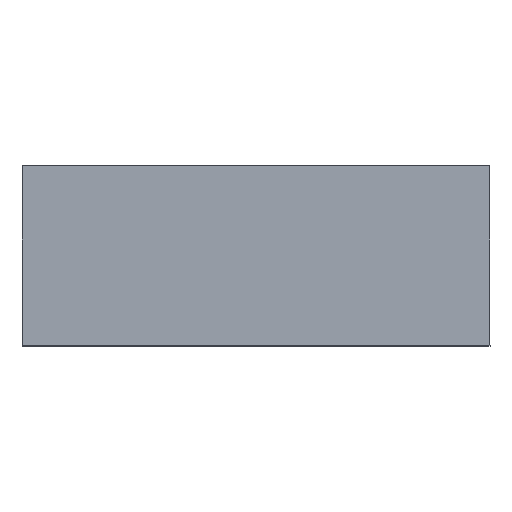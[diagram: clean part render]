
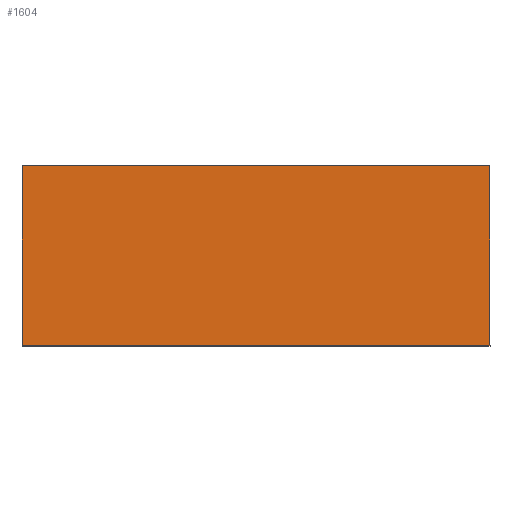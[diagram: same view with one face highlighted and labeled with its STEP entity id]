
A CAD part, top view. The second image highlights one B-rep face of the part: STEP entity #1604.
In plain terms, the highlighted planar face has unit normal (0, 0, 1).
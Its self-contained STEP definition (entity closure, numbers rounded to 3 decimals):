
#72 = PLANE('',#73);
#73 = AXIS2_PLACEMENT_3D('',#74,#75,#76);
#74 = CARTESIAN_POINT('',(-130.,30.23,
    0.));
#75 = DIRECTION('',(-1.,0.,0.));
#76 = DIRECTION('',(0.,0.,1.));
#342 = PLANE('',#343);
#343 = AXIS2_PLACEMENT_3D('',#344,#345,#346);
#344 = CARTESIAN_POINT('',(0.,100.,0.));
#345 = DIRECTION('',(0.,-1.,0.));
#346 = DIRECTION('',(0.,0.,1.));
#378 = EDGE_CURVE('',#379,#381,#383,.T.);
#379 = VERTEX_POINT('',#380);
#380 = CARTESIAN_POINT('',(130.,100.,130.));
#381 = VERTEX_POINT('',#382);
#382 = CARTESIAN_POINT('',(-130.,100.,130.));
#383 = SURFACE_CURVE('',#384,(#388,#395),.PCURVE_S1.);
#384 = LINE('',#385,#386);
#385 = CARTESIAN_POINT('',(130.,100.,130.));
#386 = VECTOR('',#387,1.);
#387 = DIRECTION('',(-1.,0.,0.));
#388 = PCURVE('',#342,#389);
#389 = DEFINITIONAL_REPRESENTATION('',(#390),#394);
#390 = LINE('',#391,#392);
#391 = CARTESIAN_POINT('',(130.,-130.));
#392 = VECTOR('',#393,1.);
#393 = DIRECTION('',(0.,1.));
#394 = ( GEOMETRIC_REPRESENTATION_CONTEXT(2) 
PARAMETRIC_REPRESENTATION_CONTEXT() REPRESENTATION_CONTEXT('2D SPACE',''
  ) );
#395 = PCURVE('',#396,#401);
#396 = PLANE('',#397);
#397 = AXIS2_PLACEMENT_3D('',#398,#399,#400);
#398 = CARTESIAN_POINT('',(130.,0.,130.));
#399 = DIRECTION('',(0.,0.,1.));
#400 = DIRECTION('',(-1.,0.,0.));
#401 = DEFINITIONAL_REPRESENTATION('',(#402),#406);
#402 = LINE('',#403,#404);
#403 = CARTESIAN_POINT('',(0.,-100.));
#404 = VECTOR('',#405,1.);
#405 = DIRECTION('',(1.,0.));
#406 = ( GEOMETRIC_REPRESENTATION_CONTEXT(2) 
PARAMETRIC_REPRESENTATION_CONTEXT() REPRESENTATION_CONTEXT('2D SPACE',''
  ) );
#589 = PLANE('',#590);
#590 = AXIS2_PLACEMENT_3D('',#591,#592,#593);
#591 = CARTESIAN_POINT('',(130.,30.23,
    0.));
#592 = DIRECTION('',(1.,0.,0.));
#593 = DIRECTION('',(0.,1.,0.));
#1103 = PLANE('',#1104);
#1104 = AXIS2_PLACEMENT_3D('',#1105,#1106,#1107);
#1105 = CARTESIAN_POINT('',(0.,0.,
    0.));
#1106 = DIRECTION('',(0.,-1.,0.));
#1107 = DIRECTION('',(0.,0.,1.));
#1604 = ADVANCED_FACE('',(#1605),#396,.T.);
#1605 = FACE_BOUND('',#1606,.T.);
#1606 = EDGE_LOOP('',(#1607,#1630,#1631,#1654));
#1607 = ORIENTED_EDGE('',*,*,#1608,.T.);
#1608 = EDGE_CURVE('',#1609,#379,#1611,.T.);
#1609 = VERTEX_POINT('',#1610);
#1610 = CARTESIAN_POINT('',(130.,0.,130.));
#1611 = SURFACE_CURVE('',#1612,(#1616,#1623),.PCURVE_S1.);
#1612 = LINE('',#1613,#1614);
#1613 = CARTESIAN_POINT('',(130.,0.,130.));
#1614 = VECTOR('',#1615,1.);
#1615 = DIRECTION('',(0.,1.,0.));
#1616 = PCURVE('',#396,#1617);
#1617 = DEFINITIONAL_REPRESENTATION('',(#1618),#1622);
#1618 = LINE('',#1619,#1620);
#1619 = CARTESIAN_POINT('',(0.,0.));
#1620 = VECTOR('',#1621,1.);
#1621 = DIRECTION('',(0.,-1.));
#1622 = ( GEOMETRIC_REPRESENTATION_CONTEXT(2) 
PARAMETRIC_REPRESENTATION_CONTEXT() REPRESENTATION_CONTEXT('2D SPACE',''
  ) );
#1623 = PCURVE('',#589,#1624);
#1624 = DEFINITIONAL_REPRESENTATION('',(#1625),#1629);
#1625 = LINE('',#1626,#1627);
#1626 = CARTESIAN_POINT('',(-30.23,130.));
#1627 = VECTOR('',#1628,1.);
#1628 = DIRECTION('',(1.,0.));
#1629 = ( GEOMETRIC_REPRESENTATION_CONTEXT(2) 
PARAMETRIC_REPRESENTATION_CONTEXT() REPRESENTATION_CONTEXT('2D SPACE',''
  ) );
#1630 = ORIENTED_EDGE('',*,*,#378,.T.);
#1631 = ORIENTED_EDGE('',*,*,#1632,.F.);
#1632 = EDGE_CURVE('',#1633,#381,#1635,.T.);
#1633 = VERTEX_POINT('',#1634);
#1634 = CARTESIAN_POINT('',(-130.,0.,130.));
#1635 = SURFACE_CURVE('',#1636,(#1640,#1647),.PCURVE_S1.);
#1636 = LINE('',#1637,#1638);
#1637 = CARTESIAN_POINT('',(-130.,0.,130.));
#1638 = VECTOR('',#1639,1.);
#1639 = DIRECTION('',(0.,1.,0.));
#1640 = PCURVE('',#396,#1641);
#1641 = DEFINITIONAL_REPRESENTATION('',(#1642),#1646);
#1642 = LINE('',#1643,#1644);
#1643 = CARTESIAN_POINT('',(260.,0.));
#1644 = VECTOR('',#1645,1.);
#1645 = DIRECTION('',(0.,-1.));
#1646 = ( GEOMETRIC_REPRESENTATION_CONTEXT(2) 
PARAMETRIC_REPRESENTATION_CONTEXT() REPRESENTATION_CONTEXT('2D SPACE',''
  ) );
#1647 = PCURVE('',#72,#1648);
#1648 = DEFINITIONAL_REPRESENTATION('',(#1649),#1653);
#1649 = LINE('',#1650,#1651);
#1650 = CARTESIAN_POINT('',(130.,-30.23));
#1651 = VECTOR('',#1652,1.);
#1652 = DIRECTION('',(0.,1.));
#1653 = ( GEOMETRIC_REPRESENTATION_CONTEXT(2) 
PARAMETRIC_REPRESENTATION_CONTEXT() REPRESENTATION_CONTEXT('2D SPACE',''
  ) );
#1654 = ORIENTED_EDGE('',*,*,#1655,.F.);
#1655 = EDGE_CURVE('',#1609,#1633,#1656,.T.);
#1656 = SURFACE_CURVE('',#1657,(#1661,#1668),.PCURVE_S1.);
#1657 = LINE('',#1658,#1659);
#1658 = CARTESIAN_POINT('',(130.,0.,130.));
#1659 = VECTOR('',#1660,1.);
#1660 = DIRECTION('',(-1.,0.,0.));
#1661 = PCURVE('',#396,#1662);
#1662 = DEFINITIONAL_REPRESENTATION('',(#1663),#1667);
#1663 = LINE('',#1664,#1665);
#1664 = CARTESIAN_POINT('',(0.,0.));
#1665 = VECTOR('',#1666,1.);
#1666 = DIRECTION('',(1.,0.));
#1667 = ( GEOMETRIC_REPRESENTATION_CONTEXT(2) 
PARAMETRIC_REPRESENTATION_CONTEXT() REPRESENTATION_CONTEXT('2D SPACE',''
  ) );
#1668 = PCURVE('',#1103,#1669);
#1669 = DEFINITIONAL_REPRESENTATION('',(#1670),#1674);
#1670 = LINE('',#1671,#1672);
#1671 = CARTESIAN_POINT('',(130.,-130.));
#1672 = VECTOR('',#1673,1.);
#1673 = DIRECTION('',(0.,1.));
#1674 = ( GEOMETRIC_REPRESENTATION_CONTEXT(2) 
PARAMETRIC_REPRESENTATION_CONTEXT() REPRESENTATION_CONTEXT('2D SPACE',''
  ) );
